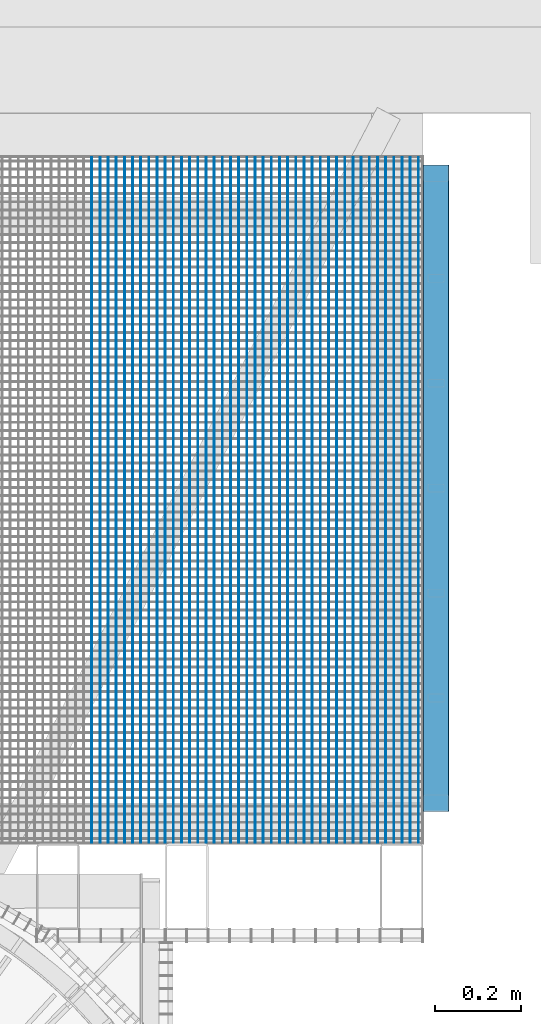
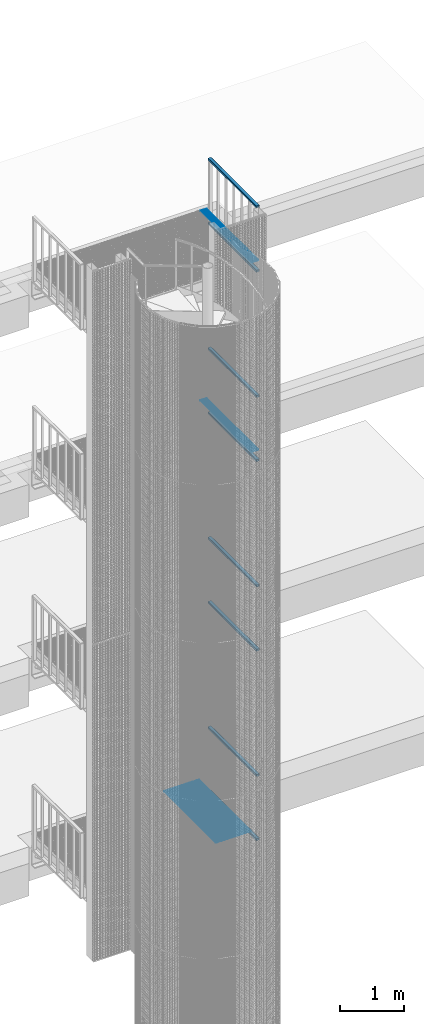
# One storey, part 89 of 1148: 56 beams, 11 elements without a shape of their own.
"""IFC2X3 building model written with IfcOpenShell, lengths in millimetres."""

from ifc_helpers import new_model, si_unit, frame, origin_with_axes, origin_2d_with_axis, place, context, subcontext, project, spatial, rectangle, hollow_rectangle, extrude, material, type_object, element, aggregate, save


model = new_model("IFC2X3")

# Units and contexts
model_context = context("Model", 3, precision=1e-05, world=origin_with_axes())
body_context = subcontext(model_context, "Body", "Model", "MODEL_VIEW")
ifc_project = project(units=[si_unit("LENGTHUNIT", "METRE", prefix="MILLI"), si_unit("AREAUNIT", "SQUARE_METRE"), si_unit("VOLUMEUNIT", "CUBIC_METRE"), si_unit("MASSUNIT", "GRAM", prefix="KILO"), si_unit("TIMEUNIT", "SECOND"), si_unit("PLANEANGLEUNIT", "RADIAN"), si_unit("SOLIDANGLEUNIT", "STERADIAN"), si_unit("THERMODYNAMICTEMPERATUREUNIT", "DEGREE_CELSIUS"), si_unit("LUMINOUSINTENSITYUNIT", "LUMEN")], contexts=[model_context])

# Site, building, storey
site_placement = place(None, origin_with_axes())
site = spatial("IfcSite", under=ifc_project, at=site_placement, Name="Undefined", CompositionType="ELEMENT")
building_placement = place(site_placement, origin_with_axes())
building = spatial("IfcBuilding", under=site, at=building_placement, Name="Undefined", CompositionType="ELEMENT")
storey_placement = place(building_placement, origin_with_axes())
storey = spatial("IfcBuildingStorey", under=building, at=storey_placement, Name="Undefined", CompositionType="ELEMENT", Elevation=0.0)

# Assembly, beams
assembly_1_placement = place(storey_placement, origin_with_axes())
assembly_1 = element("IfcElementAssembly", 1, at=assembly_1_placement, inside=storey, Name="BORDURE", AssemblyPlace="NOTDEFINED", PredefinedType="NOTDEFINED")
ifc_material = material(Name="STEEL/S235JR")
beam_type_1 = type_object("IfcBeamType", Name="PL2*10", PredefinedType="NOTDEFINED")
beam_1_placement = place(assembly_1_placement, frame((1425.07542471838, 1102.00933287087, 17285.0), z_axis=(0.0, 0.0, 1.0), x_axis=(-4.50599999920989e-06, 0.999999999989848, 0.0)))
beam_1 = element("IfcBeam", 2, at=beam_1_placement, type_object=beam_type_1, material=ifc_material, Name="ENTRETOISE", context=body_context, shape_type="SweptSolid", body=[
    extrude(rectangle(XDim=2.0, YDim=10.0, at=origin_2d_with_axis()), frame((1596.0000000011, -1.35186458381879e-18, -7.27595761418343e-12), z_axis=(-1.0, 0.0, 0.0), x_axis=(0.0, -1.0, 0.0)), (0.0, 0.0, 1.0), 1596.0),
])
beam_2_placement = place(assembly_1_placement, frame((1444.07542471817, 1102.00942638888, 17285.0), z_axis=(0.0, 0.0, 1.0), x_axis=(-4.50599999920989e-06, 0.999999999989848, 0.0)))
beam_2 = element("IfcBeam", 3, at=beam_2_placement, type_object=beam_type_1, material=ifc_material, Name="ENTRETOISE", context=body_context, shape_type="SweptSolid", body=[
    extrude(rectangle(XDim=2.0, YDim=10.0, at=origin_2d_with_axis()), frame((1596.0000000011, -1.35186458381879e-18, -7.27595761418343e-12), z_axis=(-1.0, 0.0, 0.0), x_axis=(0.0, -1.0, 0.0)), (0.0, 0.0, 1.0), 1596.0),
])
beam_3_placement = place(assembly_1_placement, frame((1463.07542471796, 1102.00951990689, 17285.0), z_axis=(0.0, 0.0, 1.0), x_axis=(-4.50599999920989e-06, 0.999999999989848, 0.0)))
beam_3 = element("IfcBeam", 4, at=beam_3_placement, type_object=beam_type_1, material=ifc_material, Name="ENTRETOISE", context=body_context, shape_type="SweptSolid", body=[
    extrude(rectangle(XDim=2.0, YDim=10.0, at=origin_2d_with_axis()), frame((1596.0000000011, -1.35186458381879e-18, -7.27595761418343e-12), z_axis=(-1.0, 0.0, 0.0), x_axis=(0.0, -1.0, 0.0)), (0.0, 0.0, 1.0), 1596.0),
])
beam_4_placement = place(assembly_1_placement, frame((1482.07542471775, 1102.0096134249, 17285.0), z_axis=(0.0, 0.0, 1.0), x_axis=(-4.50599999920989e-06, 0.999999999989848, 0.0)))
beam_4 = element("IfcBeam", 5, at=beam_4_placement, type_object=beam_type_1, material=ifc_material, Name="ENTRETOISE", context=body_context, shape_type="SweptSolid", body=[
    extrude(rectangle(XDim=2.0, YDim=10.0, at=origin_2d_with_axis()), frame((1596.0000000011, -1.35186458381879e-18, -7.27595761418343e-12), z_axis=(-1.0, 0.0, 0.0), x_axis=(0.0, -1.0, 0.0)), (0.0, 0.0, 1.0), 1596.0),
])
beam_5_placement = place(assembly_1_placement, frame((1501.07542471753, 1102.00970694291, 17285.0), z_axis=(0.0, 0.0, 1.0), x_axis=(-4.50599999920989e-06, 0.999999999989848, 0.0)))
beam_5 = element("IfcBeam", 6, at=beam_5_placement, type_object=beam_type_1, material=ifc_material, Name="ENTRETOISE", context=body_context, shape_type="SweptSolid", body=[
    extrude(rectangle(XDim=2.0, YDim=10.0, at=origin_2d_with_axis()), frame((1596.0000000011, -1.35186458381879e-18, -7.27595761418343e-12), z_axis=(-1.0, 0.0, 0.0), x_axis=(0.0, -1.0, 0.0)), (0.0, 0.0, 1.0), 1596.0),
])
beam_6_placement = place(assembly_1_placement, frame((1520.07542471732, 1102.00980046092, 17285.0), z_axis=(0.0, 0.0, 1.0), x_axis=(-4.50599999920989e-06, 0.999999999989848, 0.0)))
beam_6 = element("IfcBeam", 7, at=beam_6_placement, type_object=beam_type_1, material=ifc_material, Name="ENTRETOISE", context=body_context, shape_type="SweptSolid", body=[
    extrude(rectangle(XDim=2.0, YDim=10.0, at=origin_2d_with_axis()), frame((1596.0000000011, -1.35186458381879e-18, -7.27595761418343e-12), z_axis=(-1.0, 0.0, 0.0), x_axis=(0.0, -1.0, 0.0)), (0.0, 0.0, 1.0), 1596.0),
])
beam_7_placement = place(assembly_1_placement, frame((1539.07542471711, 1102.00989397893, 17285.0), z_axis=(0.0, 0.0, 1.0), x_axis=(-4.50599999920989e-06, 0.999999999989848, 0.0)))
beam_7 = element("IfcBeam", 8, at=beam_7_placement, type_object=beam_type_1, material=ifc_material, Name="ENTRETOISE", context=body_context, shape_type="SweptSolid", body=[
    extrude(rectangle(XDim=2.0, YDim=10.0, at=origin_2d_with_axis()), frame((1596.0000000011, -1.35186458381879e-18, -7.27595761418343e-12), z_axis=(-1.0, 0.0, 0.0), x_axis=(0.0, -1.0, 0.0)), (0.0, 0.0, 1.0), 1596.0),
])
aggregate(assembly_1, [beam_1, beam_2, beam_3, beam_4, beam_5, beam_6, beam_7])

assembly_2_placement = place(storey_placement, origin_with_axes())
assembly_2 = element("IfcElementAssembly", 9, at=assembly_2_placement, inside=storey, Name="BORDURE", AssemblyPlace="NOTDEFINED", PredefinedType="NOTDEFINED")
beam_8_placement = place(assembly_2_placement, frame((1425.07542471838, 1102.00933287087, 13685.0), z_axis=(0.0, 0.0, 1.0), x_axis=(-4.50599999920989e-06, 0.999999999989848, 0.0)))
beam_8 = element("IfcBeam", 10, at=beam_8_placement, type_object=beam_type_1, material=ifc_material, Name="ENTRETOISE", context=body_context, shape_type="SweptSolid", body=[
    extrude(rectangle(XDim=2.0, YDim=10.0, at=origin_2d_with_axis()), frame((1596.0000000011, -1.35186458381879e-18, -7.27595761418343e-12), z_axis=(-1.0, 0.0, 0.0), x_axis=(0.0, -1.0, 0.0)), (0.0, 0.0, 1.0), 1596.0),
])
beam_9_placement = place(assembly_2_placement, frame((1444.07542471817, 1102.00942638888, 13685.0), z_axis=(0.0, 0.0, 1.0), x_axis=(-4.50599999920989e-06, 0.999999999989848, 0.0)))
beam_9 = element("IfcBeam", 11, at=beam_9_placement, type_object=beam_type_1, material=ifc_material, Name="ENTRETOISE", context=body_context, shape_type="SweptSolid", body=[
    extrude(rectangle(XDim=2.0, YDim=10.0, at=origin_2d_with_axis()), frame((1596.0000000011, -1.35186458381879e-18, -7.27595761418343e-12), z_axis=(-1.0, 0.0, 0.0), x_axis=(0.0, -1.0, 0.0)), (0.0, 0.0, 1.0), 1596.0),
])
beam_10_placement = place(assembly_2_placement, frame((1463.07542471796, 1102.00951990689, 13685.0), z_axis=(0.0, 0.0, 1.0), x_axis=(-4.50599999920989e-06, 0.999999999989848, 0.0)))
beam_10 = element("IfcBeam", 12, at=beam_10_placement, type_object=beam_type_1, material=ifc_material, Name="ENTRETOISE", context=body_context, shape_type="SweptSolid", body=[
    extrude(rectangle(XDim=2.0, YDim=10.0, at=origin_2d_with_axis()), frame((1596.0000000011, -1.35186458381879e-18, -7.27595761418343e-12), z_axis=(-1.0, 0.0, 0.0), x_axis=(0.0, -1.0, 0.0)), (0.0, 0.0, 1.0), 1596.0),
])
beam_11_placement = place(assembly_2_placement, frame((1482.07542471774, 1102.0096134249, 13685.0), z_axis=(0.0, 0.0, 1.0), x_axis=(-4.50599999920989e-06, 0.999999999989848, 0.0)))
beam_11 = element("IfcBeam", 13, at=beam_11_placement, type_object=beam_type_1, material=ifc_material, Name="ENTRETOISE", context=body_context, shape_type="SweptSolid", body=[
    extrude(rectangle(XDim=2.0, YDim=10.0, at=origin_2d_with_axis()), frame((1596.0000000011, -1.35186458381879e-18, -7.27595761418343e-12), z_axis=(-1.0, 0.0, 0.0), x_axis=(0.0, -1.0, 0.0)), (0.0, 0.0, 1.0), 1596.0),
])
beam_12_placement = place(assembly_2_placement, frame((1501.07542471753, 1102.00970694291, 13685.0), z_axis=(0.0, 0.0, 1.0), x_axis=(-4.50599999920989e-06, 0.999999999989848, 0.0)))
beam_12 = element("IfcBeam", 14, at=beam_12_placement, type_object=beam_type_1, material=ifc_material, Name="ENTRETOISE", context=body_context, shape_type="SweptSolid", body=[
    extrude(rectangle(XDim=2.0, YDim=10.0, at=origin_2d_with_axis()), frame((1596.0000000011, -1.35186458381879e-18, -7.27595761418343e-12), z_axis=(-1.0, 0.0, 0.0), x_axis=(0.0, -1.0, 0.0)), (0.0, 0.0, 1.0), 1596.0),
])
beam_13_placement = place(assembly_2_placement, frame((1520.07542471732, 1102.00980046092, 13685.0), z_axis=(0.0, 0.0, 1.0), x_axis=(-4.50599999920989e-06, 0.999999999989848, 0.0)))
beam_13 = element("IfcBeam", 15, at=beam_13_placement, type_object=beam_type_1, material=ifc_material, Name="ENTRETOISE", context=body_context, shape_type="SweptSolid", body=[
    extrude(rectangle(XDim=2.0, YDim=10.0, at=origin_2d_with_axis()), frame((1596.0000000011, -1.35186458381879e-18, -7.27595761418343e-12), z_axis=(-1.0, 0.0, 0.0), x_axis=(0.0, -1.0, 0.0)), (0.0, 0.0, 1.0), 1596.0),
])
beam_14_placement = place(assembly_2_placement, frame((1539.07542471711, 1102.00989397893, 13685.0), z_axis=(0.0, 0.0, 1.0), x_axis=(-4.50599999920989e-06, 0.999999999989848, 0.0)))
beam_14 = element("IfcBeam", 16, at=beam_14_placement, type_object=beam_type_1, material=ifc_material, Name="ENTRETOISE", context=body_context, shape_type="SweptSolid", body=[
    extrude(rectangle(XDim=2.0, YDim=10.0, at=origin_2d_with_axis()), frame((1596.0000000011, -1.35186458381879e-18, -7.27595761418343e-12), z_axis=(-1.0, 0.0, 0.0), x_axis=(0.0, -1.0, 0.0)), (0.0, 0.0, 1.0), 1596.0),
])
aggregate(assembly_2, [beam_8, beam_9, beam_10, beam_11, beam_12, beam_13, beam_14])

assembly_3_placement = place(storey_placement, origin_with_axes())
assembly_3 = element("IfcElementAssembly", 17, at=assembly_3_placement, inside=storey, Name="BORDURE", AssemblyPlace="NOTDEFINED", PredefinedType="NOTDEFINED")
beam_15_placement = place(assembly_3_placement, frame((779.075424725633, 1102.00615325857, 6485.0), z_axis=(0.0, 0.0, 1.0), x_axis=(-4.50599999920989e-06, 0.999999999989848, 0.0)))
beam_15 = element("IfcBeam", 18, at=beam_15_placement, type_object=beam_type_1, material=ifc_material, Name="ENTRETOISE", context=body_context, shape_type="SweptSolid", body=[
    extrude(rectangle(XDim=2.0, YDim=10.0, at=origin_2d_with_axis()), frame((1596.0000000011, -1.35186458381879e-18, -7.27595761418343e-12), z_axis=(-1.0, 0.0, 0.0), x_axis=(0.0, -1.0, 0.0)), (0.0, 0.0, 1.0), 1596.0),
])
beam_16_placement = place(assembly_3_placement, frame((798.07542472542, 1102.00624677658, 6485.0), z_axis=(0.0, 0.0, 1.0), x_axis=(-4.50599999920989e-06, 0.999999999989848, 0.0)))
beam_16 = element("IfcBeam", 19, at=beam_16_placement, type_object=beam_type_1, material=ifc_material, Name="ENTRETOISE", context=body_context, shape_type="SweptSolid", body=[
    extrude(rectangle(XDim=2.0, YDim=10.0, at=origin_2d_with_axis()), frame((1596.0000000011, -1.35186458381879e-18, -7.27595761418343e-12), z_axis=(-1.0, 0.0, 0.0), x_axis=(0.0, -1.0, 0.0)), (0.0, 0.0, 1.0), 1596.0),
])
beam_17_placement = place(assembly_3_placement, frame((817.075424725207, 1102.00634029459, 6485.0), z_axis=(0.0, 0.0, 1.0), x_axis=(-4.50599999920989e-06, 0.999999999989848, 0.0)))
beam_17 = element("IfcBeam", 20, at=beam_17_placement, type_object=beam_type_1, material=ifc_material, Name="ENTRETOISE", context=body_context, shape_type="SweptSolid", body=[
    extrude(rectangle(XDim=2.0, YDim=10.0, at=origin_2d_with_axis()), frame((1596.0000000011, -1.35186458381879e-18, -7.27595761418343e-12), z_axis=(-1.0, 0.0, 0.0), x_axis=(0.0, -1.0, 0.0)), (0.0, 0.0, 1.0), 1596.0),
])
beam_18_placement = place(assembly_3_placement, frame((836.075424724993, 1102.00643381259, 6485.0), z_axis=(0.0, 0.0, 1.0), x_axis=(-4.50599999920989e-06, 0.999999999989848, 0.0)))
beam_18 = element("IfcBeam", 21, at=beam_18_placement, type_object=beam_type_1, material=ifc_material, Name="ENTRETOISE", context=body_context, shape_type="SweptSolid", body=[
    extrude(rectangle(XDim=2.0, YDim=10.0, at=origin_2d_with_axis()), frame((1596.0000000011, -1.35186458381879e-18, -7.27595761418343e-12), z_axis=(-1.0, 0.0, 0.0), x_axis=(0.0, -1.0, 0.0)), (0.0, 0.0, 1.0), 1596.0),
])
beam_19_placement = place(assembly_3_placement, frame((855.075424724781, 1102.0065273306, 6485.0), z_axis=(0.0, 0.0, 1.0), x_axis=(-4.50599999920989e-06, 0.999999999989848, 0.0)))
beam_19 = element("IfcBeam", 22, at=beam_19_placement, type_object=beam_type_1, material=ifc_material, Name="ENTRETOISE", context=body_context, shape_type="SweptSolid", body=[
    extrude(rectangle(XDim=2.0, YDim=10.0, at=origin_2d_with_axis()), frame((1596.0000000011, -1.35186458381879e-18, -7.27595761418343e-12), z_axis=(-1.0, 0.0, 0.0), x_axis=(0.0, -1.0, 0.0)), (0.0, 0.0, 1.0), 1596.0),
])
beam_20_placement = place(assembly_3_placement, frame((874.075424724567, 1102.00662084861, 6485.0), z_axis=(0.0, 0.0, 1.0), x_axis=(-4.50599999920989e-06, 0.999999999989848, 0.0)))
beam_20 = element("IfcBeam", 23, at=beam_20_placement, type_object=beam_type_1, material=ifc_material, Name="ENTRETOISE", context=body_context, shape_type="SweptSolid", body=[
    extrude(rectangle(XDim=2.0, YDim=10.0, at=origin_2d_with_axis()), frame((1596.0000000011, -1.35186458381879e-18, -7.27595761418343e-12), z_axis=(-1.0, 0.0, 0.0), x_axis=(0.0, -1.0, 0.0)), (0.0, 0.0, 1.0), 1596.0),
])
beam_21_placement = place(assembly_3_placement, frame((893.075424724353, 1102.00671436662, 6485.0), z_axis=(0.0, 0.0, 1.0), x_axis=(-4.50599999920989e-06, 0.999999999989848, 0.0)))
beam_21 = element("IfcBeam", 24, at=beam_21_placement, type_object=beam_type_1, material=ifc_material, Name="ENTRETOISE", context=body_context, shape_type="SweptSolid", body=[
    extrude(rectangle(XDim=2.0, YDim=10.0, at=origin_2d_with_axis()), frame((1596.0000000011, -1.35186458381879e-18, -7.27595761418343e-12), z_axis=(-1.0, 0.0, 0.0), x_axis=(0.0, -1.0, 0.0)), (0.0, 0.0, 1.0), 1596.0),
])
beam_22_placement = place(assembly_3_placement, frame((912.07542472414, 1102.00680788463, 6485.0), z_axis=(0.0, 0.0, 1.0), x_axis=(-4.50599999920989e-06, 0.999999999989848, 0.0)))
beam_22 = element("IfcBeam", 25, at=beam_22_placement, type_object=beam_type_1, material=ifc_material, Name="ENTRETOISE", context=body_context, shape_type="SweptSolid", body=[
    extrude(rectangle(XDim=2.0, YDim=10.0, at=origin_2d_with_axis()), frame((1596.0000000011, -1.35186458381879e-18, -7.27595761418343e-12), z_axis=(-1.0, 0.0, 0.0), x_axis=(0.0, -1.0, 0.0)), (0.0, 0.0, 1.0), 1596.0),
])
beam_23_placement = place(assembly_3_placement, frame((931.075424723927, 1102.00690140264, 6485.0), z_axis=(0.0, 0.0, 1.0), x_axis=(-4.50599999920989e-06, 0.999999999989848, 0.0)))
beam_23 = element("IfcBeam", 26, at=beam_23_placement, type_object=beam_type_1, material=ifc_material, Name="ENTRETOISE", context=body_context, shape_type="SweptSolid", body=[
    extrude(rectangle(XDim=2.0, YDim=10.0, at=origin_2d_with_axis()), frame((1596.0000000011, -1.35186458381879e-18, -7.27595761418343e-12), z_axis=(-1.0, 0.0, 0.0), x_axis=(0.0, -1.0, 0.0)), (0.0, 0.0, 1.0), 1596.0),
])
beam_24_placement = place(assembly_3_placement, frame((950.075424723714, 1102.00699492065, 6485.0), z_axis=(0.0, 0.0, 1.0), x_axis=(-4.50599999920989e-06, 0.999999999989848, 0.0)))
beam_24 = element("IfcBeam", 27, at=beam_24_placement, type_object=beam_type_1, material=ifc_material, Name="ENTRETOISE", context=body_context, shape_type="SweptSolid", body=[
    extrude(rectangle(XDim=2.0, YDim=10.0, at=origin_2d_with_axis()), frame((1596.0000000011, -1.35186458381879e-18, -7.27595761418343e-12), z_axis=(-1.0, 0.0, 0.0), x_axis=(0.0, -1.0, 0.0)), (0.0, 0.0, 1.0), 1596.0),
])
beam_25_placement = place(assembly_3_placement, frame((969.0754247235, 1102.00708843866, 6485.0), z_axis=(0.0, 0.0, 1.0), x_axis=(-4.50599999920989e-06, 0.999999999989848, 0.0)))
beam_25 = element("IfcBeam", 28, at=beam_25_placement, type_object=beam_type_1, material=ifc_material, Name="ENTRETOISE", context=body_context, shape_type="SweptSolid", body=[
    extrude(rectangle(XDim=2.0, YDim=10.0, at=origin_2d_with_axis()), frame((1596.0000000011, -1.35186458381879e-18, -7.27595761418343e-12), z_axis=(-1.0, 0.0, 0.0), x_axis=(0.0, -1.0, 0.0)), (0.0, 0.0, 1.0), 1596.0),
])
beam_26_placement = place(assembly_3_placement, frame((988.075424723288, 1102.00718195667, 6485.0), z_axis=(0.0, 0.0, 1.0), x_axis=(-4.50599999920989e-06, 0.999999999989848, 0.0)))
beam_26 = element("IfcBeam", 29, at=beam_26_placement, type_object=beam_type_1, material=ifc_material, Name="ENTRETOISE", context=body_context, shape_type="SweptSolid", body=[
    extrude(rectangle(XDim=2.0, YDim=10.0, at=origin_2d_with_axis()), frame((1596.0000000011, -1.35186458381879e-18, -7.27595761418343e-12), z_axis=(-1.0, 0.0, 0.0), x_axis=(0.0, -1.0, 0.0)), (0.0, 0.0, 1.0), 1596.0),
])
beam_27_placement = place(assembly_3_placement, frame((1007.07542472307, 1102.00727547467, 6485.0), z_axis=(0.0, 0.0, 1.0), x_axis=(-4.50599999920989e-06, 0.999999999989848, 0.0)))
beam_27 = element("IfcBeam", 30, at=beam_27_placement, type_object=beam_type_1, material=ifc_material, Name="ENTRETOISE", context=body_context, shape_type="SweptSolid", body=[
    extrude(rectangle(XDim=2.0, YDim=10.0, at=origin_2d_with_axis()), frame((1596.0000000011, -1.35186458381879e-18, -7.27595761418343e-12), z_axis=(-1.0, 0.0, 0.0), x_axis=(0.0, -1.0, 0.0)), (0.0, 0.0, 1.0), 1596.0),
])
beam_28_placement = place(assembly_3_placement, frame((1026.07542472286, 1102.00736899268, 6485.0), z_axis=(0.0, 0.0, 1.0), x_axis=(-4.50599999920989e-06, 0.999999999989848, 0.0)))
beam_28 = element("IfcBeam", 31, at=beam_28_placement, type_object=beam_type_1, material=ifc_material, Name="ENTRETOISE", context=body_context, shape_type="SweptSolid", body=[
    extrude(rectangle(XDim=2.0, YDim=10.0, at=origin_2d_with_axis()), frame((1596.0000000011, -1.35186458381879e-18, -7.27595761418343e-12), z_axis=(-1.0, 0.0, 0.0), x_axis=(0.0, -1.0, 0.0)), (0.0, 0.0, 1.0), 1596.0),
])
beam_29_placement = place(assembly_3_placement, frame((1045.07542472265, 1102.00746251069, 6485.0), z_axis=(0.0, 0.0, 1.0), x_axis=(-4.50599999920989e-06, 0.999999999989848, 0.0)))
beam_29 = element("IfcBeam", 32, at=beam_29_placement, type_object=beam_type_1, material=ifc_material, Name="ENTRETOISE", context=body_context, shape_type="SweptSolid", body=[
    extrude(rectangle(XDim=2.0, YDim=10.0, at=origin_2d_with_axis()), frame((1596.0000000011, -1.35186458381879e-18, -7.27595761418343e-12), z_axis=(-1.0, 0.0, 0.0), x_axis=(0.0, -1.0, 0.0)), (0.0, 0.0, 1.0), 1596.0),
])
beam_30_placement = place(assembly_3_placement, frame((1064.07542472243, 1102.0075560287, 6485.0), z_axis=(0.0, 0.0, 1.0), x_axis=(-4.50599999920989e-06, 0.999999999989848, 0.0)))
beam_30 = element("IfcBeam", 33, at=beam_30_placement, type_object=beam_type_1, material=ifc_material, Name="ENTRETOISE", context=body_context, shape_type="SweptSolid", body=[
    extrude(rectangle(XDim=2.0, YDim=10.0, at=origin_2d_with_axis()), frame((1596.0000000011, -1.35186458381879e-18, -7.27595761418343e-12), z_axis=(-1.0, 0.0, 0.0), x_axis=(0.0, -1.0, 0.0)), (0.0, 0.0, 1.0), 1596.0),
])
beam_31_placement = place(assembly_3_placement, frame((1083.07542472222, 1102.00764954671, 6485.0), z_axis=(0.0, 0.0, 1.0), x_axis=(-4.50599999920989e-06, 0.999999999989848, 0.0)))
beam_31 = element("IfcBeam", 34, at=beam_31_placement, type_object=beam_type_1, material=ifc_material, Name="ENTRETOISE", context=body_context, shape_type="SweptSolid", body=[
    extrude(rectangle(XDim=2.0, YDim=10.0, at=origin_2d_with_axis()), frame((1596.0000000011, -1.35186458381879e-18, -7.27595761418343e-12), z_axis=(-1.0, 0.0, 0.0), x_axis=(0.0, -1.0, 0.0)), (0.0, 0.0, 1.0), 1596.0),
])
beam_32_placement = place(assembly_3_placement, frame((1102.07542472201, 1102.00774306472, 6485.0), z_axis=(0.0, 0.0, 1.0), x_axis=(-4.50599999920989e-06, 0.999999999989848, 0.0)))
beam_32 = element("IfcBeam", 35, at=beam_32_placement, type_object=beam_type_1, material=ifc_material, Name="ENTRETOISE", context=body_context, shape_type="SweptSolid", body=[
    extrude(rectangle(XDim=2.0, YDim=10.0, at=origin_2d_with_axis()), frame((1596.0000000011, -1.35186458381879e-18, -7.27595761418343e-12), z_axis=(-1.0, 0.0, 0.0), x_axis=(0.0, -1.0, 0.0)), (0.0, 0.0, 1.0), 1596.0),
])
beam_33_placement = place(assembly_3_placement, frame((1121.07542472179, 1102.00783658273, 6485.0), z_axis=(0.0, 0.0, 1.0), x_axis=(-4.50599999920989e-06, 0.999999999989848, 0.0)))
beam_33 = element("IfcBeam", 36, at=beam_33_placement, type_object=beam_type_1, material=ifc_material, Name="ENTRETOISE", context=body_context, shape_type="SweptSolid", body=[
    extrude(rectangle(XDim=2.0, YDim=10.0, at=origin_2d_with_axis()), frame((1596.0000000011, -1.35186458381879e-18, -7.27595761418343e-12), z_axis=(-1.0, 0.0, 0.0), x_axis=(0.0, -1.0, 0.0)), (0.0, 0.0, 1.0), 1596.0),
])
beam_34_placement = place(assembly_3_placement, frame((1140.07542472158, 1102.00793010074, 6485.0), z_axis=(0.0, 0.0, 1.0), x_axis=(-4.50599999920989e-06, 0.999999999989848, 0.0)))
beam_34 = element("IfcBeam", 37, at=beam_34_placement, type_object=beam_type_1, material=ifc_material, Name="ENTRETOISE", context=body_context, shape_type="SweptSolid", body=[
    extrude(rectangle(XDim=2.0, YDim=10.0, at=origin_2d_with_axis()), frame((1596.0000000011, -1.35186458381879e-18, -7.27595761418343e-12), z_axis=(-1.0, 0.0, 0.0), x_axis=(0.0, -1.0, 0.0)), (0.0, 0.0, 1.0), 1596.0),
])
beam_35_placement = place(assembly_3_placement, frame((1159.07542472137, 1102.00802361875, 6485.0), z_axis=(0.0, 0.0, 1.0), x_axis=(-4.50599999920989e-06, 0.999999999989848, 0.0)))
beam_35 = element("IfcBeam", 38, at=beam_35_placement, type_object=beam_type_1, material=ifc_material, Name="ENTRETOISE", context=body_context, shape_type="SweptSolid", body=[
    extrude(rectangle(XDim=2.0, YDim=10.0, at=origin_2d_with_axis()), frame((1596.0000000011, -1.35186458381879e-18, -7.27595761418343e-12), z_axis=(-1.0, 0.0, 0.0), x_axis=(0.0, -1.0, 0.0)), (0.0, 0.0, 1.0), 1596.0),
])
beam_36_placement = place(assembly_3_placement, frame((1178.07542472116, 1102.00811713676, 6485.0), z_axis=(0.0, 0.0, 1.0), x_axis=(-4.50599999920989e-06, 0.999999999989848, 0.0)))
beam_36 = element("IfcBeam", 39, at=beam_36_placement, type_object=beam_type_1, material=ifc_material, Name="ENTRETOISE", context=body_context, shape_type="SweptSolid", body=[
    extrude(rectangle(XDim=2.0, YDim=10.0, at=origin_2d_with_axis()), frame((1596.0000000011, -1.35186458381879e-18, -7.27595761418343e-12), z_axis=(-1.0, 0.0, 0.0), x_axis=(0.0, -1.0, 0.0)), (0.0, 0.0, 1.0), 1596.0),
])
beam_37_placement = place(assembly_3_placement, frame((1197.07542472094, 1102.00821065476, 6485.0), z_axis=(0.0, 0.0, 1.0), x_axis=(-4.50599999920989e-06, 0.999999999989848, 0.0)))
beam_37 = element("IfcBeam", 40, at=beam_37_placement, type_object=beam_type_1, material=ifc_material, Name="ENTRETOISE", context=body_context, shape_type="SweptSolid", body=[
    extrude(rectangle(XDim=2.0, YDim=10.0, at=origin_2d_with_axis()), frame((1596.0000000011, -1.35186458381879e-18, -7.27595761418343e-12), z_axis=(-1.0, 0.0, 0.0), x_axis=(0.0, -1.0, 0.0)), (0.0, 0.0, 1.0), 1596.0),
])
beam_38_placement = place(assembly_3_placement, frame((1216.07542472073, 1102.00830417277, 6485.0), z_axis=(0.0, 0.0, 1.0), x_axis=(-4.50599999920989e-06, 0.999999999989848, 0.0)))
beam_38 = element("IfcBeam", 41, at=beam_38_placement, type_object=beam_type_1, material=ifc_material, Name="ENTRETOISE", context=body_context, shape_type="SweptSolid", body=[
    extrude(rectangle(XDim=2.0, YDim=10.0, at=origin_2d_with_axis()), frame((1596.0000000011, -1.35186458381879e-18, -7.27595761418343e-12), z_axis=(-1.0, 0.0, 0.0), x_axis=(0.0, -1.0, 0.0)), (0.0, 0.0, 1.0), 1596.0),
])
beam_39_placement = place(assembly_3_placement, frame((1235.07542472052, 1102.00839769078, 6485.0), z_axis=(0.0, 0.0, 1.0), x_axis=(-4.50599999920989e-06, 0.999999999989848, 0.0)))
beam_39 = element("IfcBeam", 42, at=beam_39_placement, type_object=beam_type_1, material=ifc_material, Name="ENTRETOISE", context=body_context, shape_type="SweptSolid", body=[
    extrude(rectangle(XDim=2.0, YDim=10.0, at=origin_2d_with_axis()), frame((1596.0000000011, -1.35186458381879e-18, -7.27595761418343e-12), z_axis=(-1.0, 0.0, 0.0), x_axis=(0.0, -1.0, 0.0)), (0.0, 0.0, 1.0), 1596.0),
])
beam_40_placement = place(assembly_3_placement, frame((1254.0754247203, 1102.00849120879, 6485.0), z_axis=(0.0, 0.0, 1.0), x_axis=(-4.50599999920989e-06, 0.999999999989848, 0.0)))
beam_40 = element("IfcBeam", 43, at=beam_40_placement, type_object=beam_type_1, material=ifc_material, Name="ENTRETOISE", context=body_context, shape_type="SweptSolid", body=[
    extrude(rectangle(XDim=2.0, YDim=10.0, at=origin_2d_with_axis()), frame((1596.0000000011, -1.35186458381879e-18, -7.27595761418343e-12), z_axis=(-1.0, 0.0, 0.0), x_axis=(0.0, -1.0, 0.0)), (0.0, 0.0, 1.0), 1596.0),
])
beam_41_placement = place(assembly_3_placement, frame((1273.07542472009, 1102.0085847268, 6485.0), z_axis=(0.0, 0.0, 1.0), x_axis=(-4.50599999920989e-06, 0.999999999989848, 0.0)))
beam_41 = element("IfcBeam", 44, at=beam_41_placement, type_object=beam_type_1, material=ifc_material, Name="ENTRETOISE", context=body_context, shape_type="SweptSolid", body=[
    extrude(rectangle(XDim=2.0, YDim=10.0, at=origin_2d_with_axis()), frame((1596.0000000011, -1.35186458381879e-18, -7.27595761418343e-12), z_axis=(-1.0, 0.0, 0.0), x_axis=(0.0, -1.0, 0.0)), (0.0, 0.0, 1.0), 1596.0),
])
beam_42_placement = place(assembly_3_placement, frame((1292.07542471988, 1102.00867824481, 6485.0), z_axis=(0.0, 0.0, 1.0), x_axis=(-4.50599999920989e-06, 0.999999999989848, 0.0)))
beam_42 = element("IfcBeam", 45, at=beam_42_placement, type_object=beam_type_1, material=ifc_material, Name="ENTRETOISE", context=body_context, shape_type="SweptSolid", body=[
    extrude(rectangle(XDim=2.0, YDim=10.0, at=origin_2d_with_axis()), frame((1596.0000000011, -1.35186458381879e-18, -7.27595761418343e-12), z_axis=(-1.0, 0.0, 0.0), x_axis=(0.0, -1.0, 0.0)), (0.0, 0.0, 1.0), 1596.0),
])
beam_43_placement = place(assembly_3_placement, frame((1311.07542471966, 1102.00877176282, 6485.0), z_axis=(0.0, 0.0, 1.0), x_axis=(-4.50599999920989e-06, 0.999999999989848, 0.0)))
beam_43 = element("IfcBeam", 46, at=beam_43_placement, type_object=beam_type_1, material=ifc_material, Name="ENTRETOISE", context=body_context, shape_type="SweptSolid", body=[
    extrude(rectangle(XDim=2.0, YDim=10.0, at=origin_2d_with_axis()), frame((1596.0000000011, -1.35186458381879e-18, -7.27595761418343e-12), z_axis=(-1.0, 0.0, 0.0), x_axis=(0.0, -1.0, 0.0)), (0.0, 0.0, 1.0), 1596.0),
])
beam_44_placement = place(assembly_3_placement, frame((1330.07542471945, 1102.00886528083, 6485.0), z_axis=(0.0, 0.0, 1.0), x_axis=(-4.50599999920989e-06, 0.999999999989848, 0.0)))
beam_44 = element("IfcBeam", 47, at=beam_44_placement, type_object=beam_type_1, material=ifc_material, Name="ENTRETOISE", context=body_context, shape_type="SweptSolid", body=[
    extrude(rectangle(XDim=2.0, YDim=10.0, at=origin_2d_with_axis()), frame((1596.0000000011, -1.35186458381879e-18, -7.27595761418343e-12), z_axis=(-1.0, 0.0, 0.0), x_axis=(0.0, -1.0, 0.0)), (0.0, 0.0, 1.0), 1596.0),
])
beam_45_placement = place(assembly_3_placement, frame((1349.07542471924, 1102.00895879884, 6485.0), z_axis=(0.0, 0.0, 1.0), x_axis=(-4.50599999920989e-06, 0.999999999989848, 0.0)))
beam_45 = element("IfcBeam", 48, at=beam_45_placement, type_object=beam_type_1, material=ifc_material, Name="ENTRETOISE", context=body_context, shape_type="SweptSolid", body=[
    extrude(rectangle(XDim=2.0, YDim=10.0, at=origin_2d_with_axis()), frame((1596.0000000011, -1.35186458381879e-18, -7.27595761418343e-12), z_axis=(-1.0, 0.0, 0.0), x_axis=(0.0, -1.0, 0.0)), (0.0, 0.0, 1.0), 1596.0),
])
beam_46_placement = place(assembly_3_placement, frame((1368.07542471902, 1102.00905231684, 6485.0), z_axis=(0.0, 0.0, 1.0), x_axis=(-4.50599999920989e-06, 0.999999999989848, 0.0)))
beam_46 = element("IfcBeam", 49, at=beam_46_placement, type_object=beam_type_1, material=ifc_material, Name="ENTRETOISE", context=body_context, shape_type="SweptSolid", body=[
    extrude(rectangle(XDim=2.0, YDim=10.0, at=origin_2d_with_axis()), frame((1596.0000000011, -1.35186458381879e-18, -7.27595761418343e-12), z_axis=(-1.0, 0.0, 0.0), x_axis=(0.0, -1.0, 0.0)), (0.0, 0.0, 1.0), 1596.0),
])
beam_47_placement = place(assembly_3_placement, frame((1387.07542471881, 1102.00914583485, 6485.0), z_axis=(0.0, 0.0, 1.0), x_axis=(-4.50599999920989e-06, 0.999999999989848, 0.0)))
beam_47 = element("IfcBeam", 50, at=beam_47_placement, type_object=beam_type_1, material=ifc_material, Name="ENTRETOISE", context=body_context, shape_type="SweptSolid", body=[
    extrude(rectangle(XDim=2.0, YDim=10.0, at=origin_2d_with_axis()), frame((1596.0000000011, -1.35186458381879e-18, -7.27595761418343e-12), z_axis=(-1.0, 0.0, 0.0), x_axis=(0.0, -1.0, 0.0)), (0.0, 0.0, 1.0), 1596.0),
])
beam_48_placement = place(assembly_3_placement, frame((1406.0754247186, 1102.00923935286, 6485.0), z_axis=(0.0, 0.0, 1.0), x_axis=(-4.50599999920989e-06, 0.999999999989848, 0.0)))
beam_48 = element("IfcBeam", 51, at=beam_48_placement, type_object=beam_type_1, material=ifc_material, Name="ENTRETOISE", context=body_context, shape_type="SweptSolid", body=[
    extrude(rectangle(XDim=2.0, YDim=10.0, at=origin_2d_with_axis()), frame((1596.0000000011, -1.35186458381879e-18, -7.27595761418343e-12), z_axis=(-1.0, 0.0, 0.0), x_axis=(0.0, -1.0, 0.0)), (0.0, 0.0, 1.0), 1596.0),
])
aggregate(assembly_3, [beam_15, beam_16, beam_17, beam_18, beam_19, beam_20, beam_21, beam_22, beam_23, beam_24, beam_25, beam_26, beam_27, beam_28, beam_29, beam_30, beam_31, beam_32, beam_33, beam_34, beam_35, beam_36, beam_37, beam_38, beam_39, beam_40, beam_41, beam_42, beam_43, beam_44, beam_45, beam_46, beam_47, beam_48])

# Assembly, beam
assembly_4_placement = place(storey_placement, origin_with_axes())
assembly_4 = element("IfcElementAssembly", 52, at=assembly_4_placement, inside=storey, Name="RAILING", AssemblyPlace="NOTDEFINED", PredefinedType="NOTDEFINED")
beam_type_2 = type_object("IfcBeamType", Name="TUBE-R-60*40*3", PredefinedType="NOTDEFINED")
beam_49_placement = place(assembly_4_placement, frame((1580.07043456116, 1175.01007484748, 17020.0), z_axis=(-0.999999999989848, -4.50599999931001e-06, 0.0), x_axis=(-4.50599999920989e-06, 0.999999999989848, 0.0)))
beam_49 = element("IfcBeam", 53, at=beam_49_placement, type_object=beam_type_2, material=ifc_material, Name="RAILING", context=body_context, shape_type="SweptSolid", body=[
    extrude(hollow_rectangle(XDim=40.0, YDim=60.0, WallThickness=3.0, InnerFilletRadius=3.0, OuterFilletRadius=6.0, at=origin_2d_with_axis()), frame((1504.99832798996, 3.63797880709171e-12, -1.27478316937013e-18), z_axis=(-1.0, 0.0, 0.0), x_axis=(0.0, -1.0, 0.0)), (0.0, 0.0, 1.0), 1505.0),
])
aggregate(assembly_4, [beam_49])

assembly_5_placement = place(storey_placement, origin_with_axes())
assembly_5 = element("IfcElementAssembly", 54, at=assembly_5_placement, inside=storey, Name="RAILING", AssemblyPlace="NOTDEFINED", PredefinedType="NOTDEFINED")
beam_50_placement = place(assembly_5_placement, frame((1580.07043456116, 1175.01007484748, 18240.0), z_axis=(-0.999999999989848, -4.50599999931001e-06, 0.0), x_axis=(-4.50599999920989e-06, 0.999999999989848, 0.0)))
beam_50 = element("IfcBeam", 55, at=beam_50_placement, type_object=beam_type_2, material=ifc_material, Name="RAILING", context=body_context, shape_type="SweptSolid", body=[
    extrude(hollow_rectangle(XDim=40.0, YDim=60.0, WallThickness=3.0, InnerFilletRadius=3.0, OuterFilletRadius=6.0, at=origin_2d_with_axis()), frame((1504.99832798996, 3.63797880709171e-12, -1.27478316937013e-18), z_axis=(-1.0, 0.0, 0.0), x_axis=(0.0, -1.0, 0.0)), (0.0, 0.0, 1.0), 1505.0),
])
aggregate(assembly_5, [beam_50])

assembly_6_placement = place(storey_placement, origin_with_axes())
assembly_6 = element("IfcElementAssembly", 56, at=assembly_6_placement, inside=storey, Name="RAILING", AssemblyPlace="NOTDEFINED", PredefinedType="NOTDEFINED")
beam_51_placement = place(assembly_6_placement, frame((1580.07043456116, 1175.01007484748, 13420.0), z_axis=(-0.999999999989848, -4.50599999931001e-06, 0.0), x_axis=(-4.50599999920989e-06, 0.999999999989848, 0.0)))
beam_51 = element("IfcBeam", 57, at=beam_51_placement, type_object=beam_type_2, material=ifc_material, Name="RAILING", context=body_context, shape_type="SweptSolid", body=[
    extrude(hollow_rectangle(XDim=40.0, YDim=60.0, WallThickness=3.0, InnerFilletRadius=3.0, OuterFilletRadius=6.0, at=origin_2d_with_axis()), frame((1504.99832798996, 3.63797880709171e-12, -1.27478316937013e-18), z_axis=(-1.0, 0.0, 0.0), x_axis=(0.0, -1.0, 0.0)), (0.0, 0.0, 1.0), 1505.0),
])
aggregate(assembly_6, [beam_51])

assembly_7_placement = place(storey_placement, origin_with_axes())
assembly_7 = element("IfcElementAssembly", 58, at=assembly_7_placement, inside=storey, Name="RAILING", AssemblyPlace="NOTDEFINED", PredefinedType="NOTDEFINED")
beam_52_placement = place(assembly_7_placement, frame((1580.07043456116, 1175.01007484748, 14640.0), z_axis=(-0.999999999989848, -4.50599999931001e-06, 0.0), x_axis=(-4.50599999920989e-06, 0.999999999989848, 0.0)))
beam_52 = element("IfcBeam", 59, at=beam_52_placement, type_object=beam_type_2, material=ifc_material, Name="RAILING", context=body_context, shape_type="SweptSolid", body=[
    extrude(hollow_rectangle(XDim=40.0, YDim=60.0, WallThickness=3.0, InnerFilletRadius=3.0, OuterFilletRadius=6.0, at=origin_2d_with_axis()), frame((1504.99832798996, 3.63797880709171e-12, -1.27478316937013e-18), z_axis=(-1.0, 0.0, 0.0), x_axis=(0.0, -1.0, 0.0)), (0.0, 0.0, 1.0), 1505.0),
])
aggregate(assembly_7, [beam_52])

assembly_8_placement = place(storey_placement, origin_with_axes())
assembly_8 = element("IfcElementAssembly", 60, at=assembly_8_placement, inside=storey, Name="RAILING", AssemblyPlace="NOTDEFINED", PredefinedType="NOTDEFINED")
beam_53_placement = place(assembly_8_placement, frame((1580.07043456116, 1175.01007484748, 9820.0), z_axis=(-0.999999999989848, -4.50599999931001e-06, 0.0), x_axis=(-4.50599999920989e-06, 0.999999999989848, 0.0)))
beam_53 = element("IfcBeam", 61, at=beam_53_placement, type_object=beam_type_2, material=ifc_material, Name="RAILING", context=body_context, shape_type="SweptSolid", body=[
    extrude(hollow_rectangle(XDim=40.0, YDim=60.0, WallThickness=3.0, InnerFilletRadius=3.0, OuterFilletRadius=6.0, at=origin_2d_with_axis()), frame((1504.99832798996, 3.63797880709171e-12, -1.27478316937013e-18), z_axis=(-1.0, 0.0, 0.0), x_axis=(0.0, -1.0, 0.0)), (0.0, 0.0, 1.0), 1505.0),
])
aggregate(assembly_8, [beam_53])

assembly_9_placement = place(storey_placement, origin_with_axes())
assembly_9 = element("IfcElementAssembly", 62, at=assembly_9_placement, inside=storey, Name="RAILING", AssemblyPlace="NOTDEFINED", PredefinedType="NOTDEFINED")
beam_54_placement = place(assembly_9_placement, frame((1580.07043456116, 1175.01007484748, 11040.0), z_axis=(-0.999999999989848, -4.50599999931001e-06, 0.0), x_axis=(-4.50599999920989e-06, 0.999999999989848, 0.0)))
beam_54 = element("IfcBeam", 63, at=beam_54_placement, type_object=beam_type_2, material=ifc_material, Name="RAILING", context=body_context, shape_type="SweptSolid", body=[
    extrude(hollow_rectangle(XDim=40.0, YDim=60.0, WallThickness=3.0, InnerFilletRadius=3.0, OuterFilletRadius=6.0, at=origin_2d_with_axis()), frame((1504.99832798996, 3.63797880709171e-12, -1.27478316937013e-18), z_axis=(-1.0, 0.0, 0.0), x_axis=(0.0, -1.0, 0.0)), (0.0, 0.0, 1.0), 1505.0),
])
aggregate(assembly_9, [beam_54])

assembly_10_placement = place(storey_placement, origin_with_axes())
assembly_10 = element("IfcElementAssembly", 64, at=assembly_10_placement, inside=storey, Name="RAILING", AssemblyPlace="NOTDEFINED", PredefinedType="NOTDEFINED")
beam_55_placement = place(assembly_10_placement, frame((1580.07043456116, 1175.01007484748, 6220.0), z_axis=(-0.999999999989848, -4.50599999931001e-06, 0.0), x_axis=(-4.50599999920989e-06, 0.999999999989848, 0.0)))
beam_55 = element("IfcBeam", 65, at=beam_55_placement, type_object=beam_type_2, material=ifc_material, Name="RAILING", context=body_context, shape_type="SweptSolid", body=[
    extrude(hollow_rectangle(XDim=40.0, YDim=60.0, WallThickness=3.0, InnerFilletRadius=3.0, OuterFilletRadius=6.0, at=origin_2d_with_axis()), frame((1504.99832798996, 3.63797880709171e-12, -1.27478316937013e-18), z_axis=(-1.0, 0.0, 0.0), x_axis=(0.0, -1.0, 0.0)), (0.0, 0.0, 1.0), 1505.0),
])
aggregate(assembly_10, [beam_55])

assembly_11_placement = place(storey_placement, origin_with_axes())
assembly_11 = element("IfcElementAssembly", 66, at=assembly_11_placement, inside=storey, Name="RAILING", AssemblyPlace="NOTDEFINED", PredefinedType="NOTDEFINED")
beam_56_placement = place(assembly_11_placement, frame((1580.07043456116, 1175.01007484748, 7440.0), z_axis=(-0.999999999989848, -4.50599999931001e-06, 0.0), x_axis=(-4.50599999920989e-06, 0.999999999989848, 0.0)))
beam_56 = element("IfcBeam", 67, at=beam_56_placement, type_object=beam_type_2, material=ifc_material, Name="RAILING", context=body_context, shape_type="SweptSolid", body=[
    extrude(hollow_rectangle(XDim=40.0, YDim=60.0, WallThickness=3.0, InnerFilletRadius=3.0, OuterFilletRadius=6.0, at=origin_2d_with_axis()), frame((1504.99832798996, 3.63797880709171e-12, -1.27478316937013e-18), z_axis=(-1.0, 0.0, 0.0), x_axis=(0.0, -1.0, 0.0)), (0.0, 0.0, 1.0), 1505.0),
])
aggregate(assembly_11, [beam_56])

save(model, "model.ifc")
